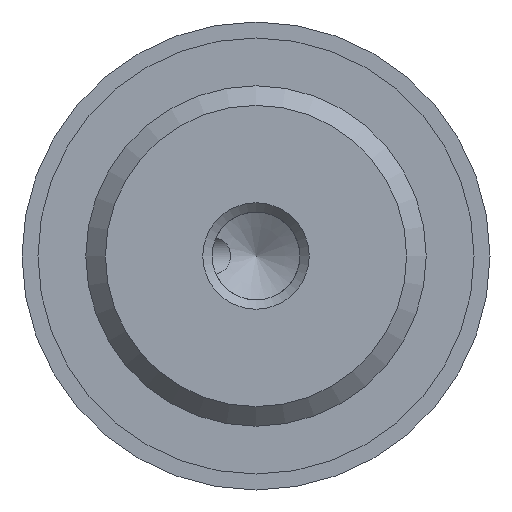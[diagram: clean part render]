
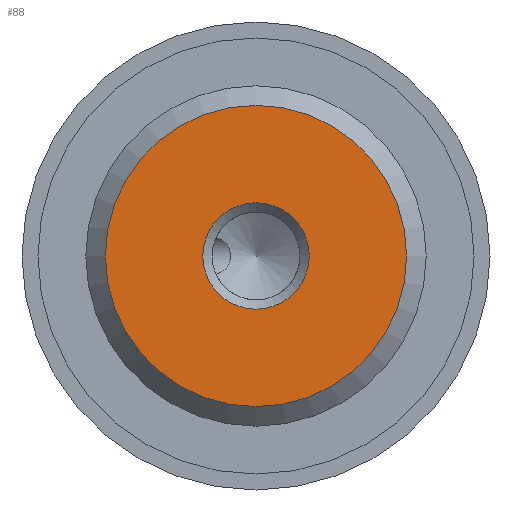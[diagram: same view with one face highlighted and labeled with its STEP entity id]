
A CAD part, front view. The second image highlights one B-rep face of the part: STEP entity #88.
In plain terms, the highlighted planar face has unit normal (0, -1, 0).
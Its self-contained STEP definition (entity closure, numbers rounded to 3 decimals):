
#88 = ADVANCED_FACE( '', ( #136, #137 ), #138, .F. );
#136 = FACE_BOUND( '', #202, .T. );
#137 = FACE_OUTER_BOUND( '', #203, .T. );
#138 = PLANE( '', #204 );
#202 = EDGE_LOOP( '', ( #316 ) );
#203 = EDGE_LOOP( '', ( #317 ) );
#204 = AXIS2_PLACEMENT_3D( '', #318, #319, #320 );
#316 = ORIENTED_EDGE( '', *, *, #434, .F. );
#317 = ORIENTED_EDGE( '', *, *, #435, .T. );
#318 = CARTESIAN_POINT( '', ( 7.08, 0., 0. ) );
#319 = DIRECTION( '', ( 0., 1., 0. ) );
#320 = DIRECTION( '', ( 0., 0., 1. ) );
#434 = EDGE_CURVE( '', #503, #503, #504, .T. );
#435 = EDGE_CURVE( '', #505, #505, #506, .T. );
#503 = VERTEX_POINT( '', #700 );
#504 = CIRCLE( '', #701, 2.5 );
#505 = VERTEX_POINT( '', #702 );
#506 = CIRCLE( '', #703, 7.08 );
#700 = CARTESIAN_POINT( '', ( 2.5, 0., 0. ) );
#701 = AXIS2_PLACEMENT_3D( '', #778, #779, #780 );
#702 = CARTESIAN_POINT( '', ( 0., 0., -7.08 ) );
#703 = AXIS2_PLACEMENT_3D( '', #781, #782, #783 );
#778 = CARTESIAN_POINT( '', ( 0., 0., 0. ) );
#779 = DIRECTION( '', ( 0., -1., 0. ) );
#780 = DIRECTION( '', ( 1., 0., 0. ) );
#781 = CARTESIAN_POINT( '', ( 0., 0., 0. ) );
#782 = DIRECTION( '', ( 0., -1., 0. ) );
#783 = DIRECTION( '', ( 0., 0., -1. ) );
